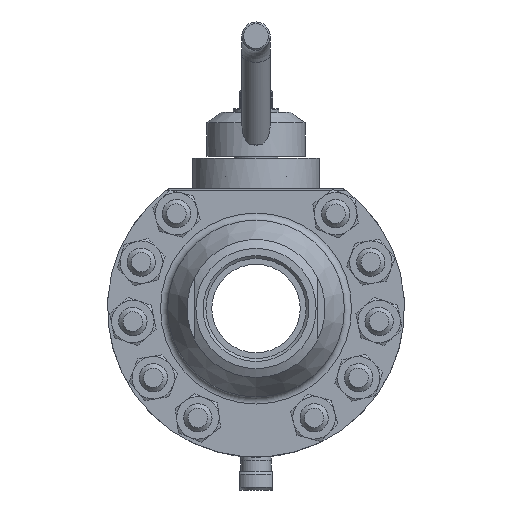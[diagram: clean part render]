
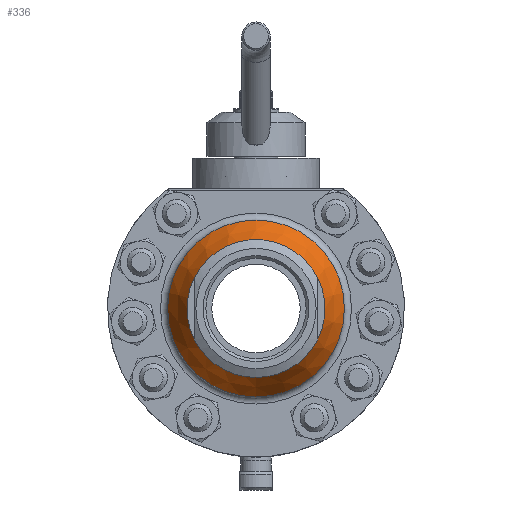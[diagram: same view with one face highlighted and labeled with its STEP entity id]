
A CAD part, left-side view. The second image highlights one B-rep face of the part: STEP entity #336.
In plain terms, the highlighted conical face has half-angle 30 degrees and reference radius 44.5 mm.
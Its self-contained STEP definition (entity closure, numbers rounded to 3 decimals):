
#336=ADVANCED_FACE('',(#3868),#3870,.T.);
#3868=FACE_OUTER_BOUND('',#3869,.T.);
#3869=EDGE_LOOP('',(#9489,#9490,#9491,#9492,#9493,#9494,#9495,#9496));
#3870=CONICAL_SURFACE('',#3871,44.5,0.524);
#3871=AXIS2_PLACEMENT_3D('',#3872,#3873,#3874);
#3872=CARTESIAN_POINT('',(-75.474,0.,0.));
#3873=DIRECTION('',(1.,0.,0.));
#3874=DIRECTION('',(0.,0.,-1.));
#9489=ORIENTED_EDGE('',*,*,#13411,.T.);
#9490=ORIENTED_EDGE('',*,*,#13412,.T.);
#9491=ORIENTED_EDGE('',*,*,#13413,.T.);
#9492=ORIENTED_EDGE('',*,*,#13414,.T.);
#9493=ORIENTED_EDGE('',*,*,#13415,.F.);
#9494=ORIENTED_EDGE('',*,*,#13349,.F.);
#9495=ORIENTED_EDGE('',*,*,#13415,.T.);
#9496=ORIENTED_EDGE('',*,*,#13416,.T.);
#13349=EDGE_CURVE('',#15699,#15699,#15701,.T.);
#13411=EDGE_CURVE('',#15787,#15788,#15789,.T.);
#13412=EDGE_CURVE('',#15788,#15790,#15791,.T.);
#13413=EDGE_CURVE('',#15790,#15792,#15793,.T.);
#13414=EDGE_CURVE('',#15792,#15794,#15795,.T.);
#13415=EDGE_CURVE('',#15699,#15794,#15796,.T.);
#13416=EDGE_CURVE('',#15794,#15787,#15797,.T.);
#15699=VERTEX_POINT('',#26328);
#15701=CIRCLE('',#26332,50.);
#15787=VERTEX_POINT('',#26594);
#15788=VERTEX_POINT('',#26595);
#15789=CIRCLE('',#26596,39.);
#15790=VERTEX_POINT('',#26600);
#15791=CIRCLE('',#26601,39.);
#15792=VERTEX_POINT('',#26605);
#15793=CIRCLE('',#26606,39.);
#15794=VERTEX_POINT('',#26610);
#15795=CIRCLE('',#26611,39.);
#15796=LINE('',#26615,#26616);
#15797=CIRCLE('',#26618,39.);
#26328=CARTESIAN_POINT('',(-65.947,0.,-50.));
#26332=AXIS2_PLACEMENT_3D('',#26333,#26334,#26335);
#26333=CARTESIAN_POINT('',(-65.947,0.,0.));
#26334=DIRECTION('',(1.,0.,0.));
#26335=DIRECTION('',(0.,0.,-1.));
#26594=CARTESIAN_POINT('',(-85.,35.,-17.205));
#26595=CARTESIAN_POINT('',(-85.,35.,17.205));
#26596=AXIS2_PLACEMENT_3D('',#26597,#26598,#26599);
#26597=CARTESIAN_POINT('',(-85.,0.,0.));
#26598=DIRECTION('',(1.,0.,0.));
#26599=DIRECTION('',(0.,0.897,-0.441));
#26600=CARTESIAN_POINT('',(-85.,-35.,17.205));
#26601=AXIS2_PLACEMENT_3D('',#26602,#26603,#26604);
#26602=CARTESIAN_POINT('',(-85.,0.,0.));
#26603=DIRECTION('',(1.,0.,0.));
#26604=DIRECTION('',(0.,0.897,0.441));
#26605=CARTESIAN_POINT('',(-85.,-35.,-17.205));
#26606=AXIS2_PLACEMENT_3D('',#26607,#26608,#26609);
#26607=CARTESIAN_POINT('',(-85.,0.,0.));
#26608=DIRECTION('',(1.,0.,0.));
#26609=DIRECTION('',(0.,-0.897,0.441));
#26610=CARTESIAN_POINT('',(-85.,0.,-39.));
#26611=AXIS2_PLACEMENT_3D('',#26612,#26613,#26614);
#26612=CARTESIAN_POINT('',(-85.,0.,0.));
#26613=DIRECTION('',(1.,0.,0.));
#26614=DIRECTION('',(0.,-0.897,-0.441));
#26615=CARTESIAN_POINT('',(-65.947,0.,-50.));
#26616=VECTOR('',#26617,1.);
#26617=DIRECTION('',(-0.866,0.,0.5));
#26618=AXIS2_PLACEMENT_3D('',#26619,#26620,#26621);
#26619=CARTESIAN_POINT('',(-85.,0.,0.));
#26620=DIRECTION('',(1.,0.,0.));
#26621=DIRECTION('',(0.,0.,-1.));
